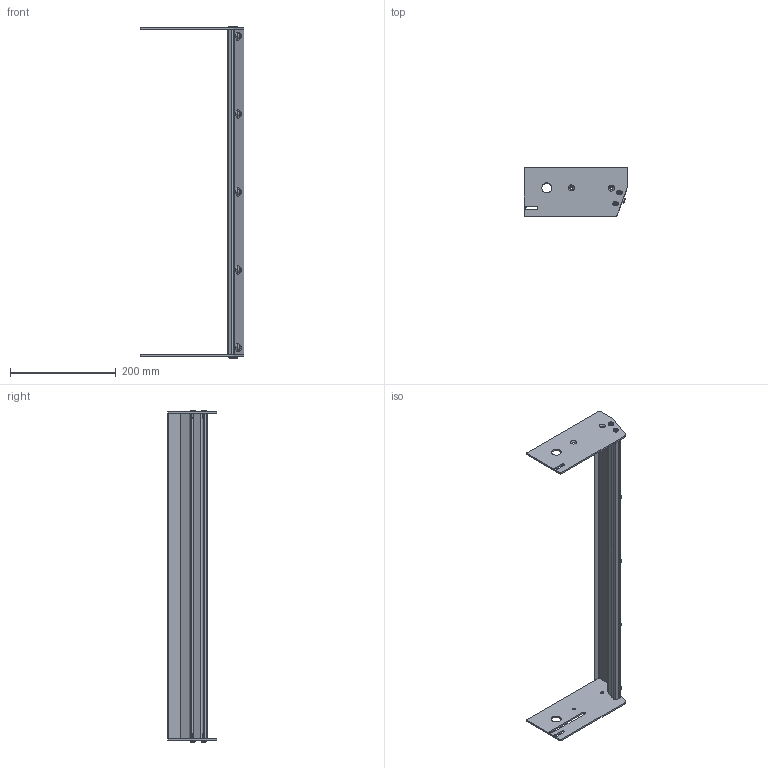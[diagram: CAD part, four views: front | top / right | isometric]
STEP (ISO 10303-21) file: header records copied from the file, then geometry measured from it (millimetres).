
FILE_DESCRIPTION((''),'2;1');
FILE_NAME('351199-24_ASM','2023-03-15T',('jenni.wallner'),(''),'PRO/ENGINEER BY PARAMETRIC TECHNOLOGY CORPORATION, 2012420','PRO/ENGINEER BY PARAMETRIC TECHNOLOGY CORPORATION, 2012420','');
FILE_SCHEMA(('CONFIG_CONTROL_DESIGN'));
Length unit declared in the file: inch
Products named in the file (10): 9506XXM_950612M; 990603M; 351202-WW_351202-24; 605279P; 9505XXM_950512M; 351200_DEFAULT_AS_MACHINED_; 351201; 351203-WW_351203-24; ASM0001_ASM; 351199-24_ASM
Assembly tree (24 placements, depth 3):
  351199-24_ASM
    ASM0001_ASM
      9506XXM_950612M  x5
      990603M  x5
      351202-WW_351202-24
      605279P  x5
      9505XXM_950512M  x4
      351200_DEFAULT_AS_MACHINED_
      351201
      351203-WW_351203-24
Bounding box: 196.11 x 93.08 x 628.69 mm (x, y, z)
Volume: 350732.7 mm3; surface area: 283700.7 mm2
Topology: 23 solids, 23 shells, 460 faces, 1088 edges, 692 vertices
Faces by surface type: plane 210, cylinder 158, cone 92
Entity records: 8183 total; most frequent: CARTESIAN_POINT 1510, DIRECTION 1469, ORIENTED_EDGE 1274, EDGE_CURVE 637, AXIS2_PLACEMENT_3D 554, VERTEX_POINT 416, VECTOR 361, LINE 361
